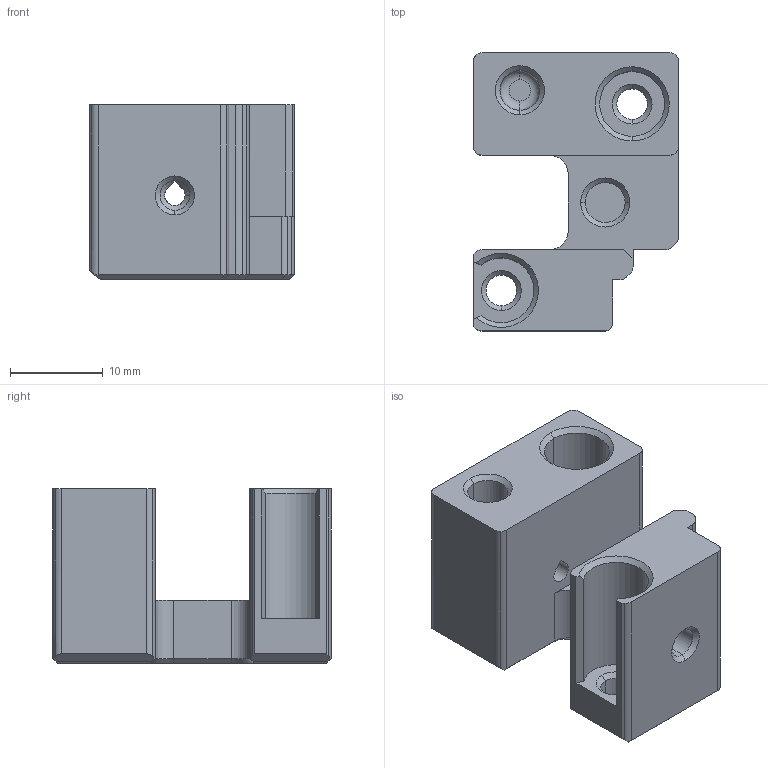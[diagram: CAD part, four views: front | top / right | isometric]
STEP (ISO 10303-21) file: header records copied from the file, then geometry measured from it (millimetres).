
FILE_DESCRIPTION((''),'2;1');
FILE_NAME('_JJJ0001','2025-04-16T16:46:50',('Mayn'),(''),'CREO PARAMETRIC BY PTC INC, 2024063','CREO PARAMETRIC BY PTC INC, 2024063','');
FILE_SCHEMA(('CONFIG_CONTROL_DESIGN'));
Length unit declared in the file: millimetre
Products named in the file (1): _JJJ0001
Bounding box: 22.1 x 30 x 18.8 mm (x, y, z)
Volume: 6223.5 mm3; surface area: 4072.2 mm2
Topology: 1 solids, 1 shells, 121 faces, 309 edges, 195 vertices
Faces by surface type: plane 51, cylinder 39, cone 29, torus 2
Entity records: 3728 total; most frequent: CARTESIAN_POINT 729, ORIENTED_EDGE 618, DIRECTION 616, EDGE_CURVE 309, AXIS2_PLACEMENT_3D 220, VERTEX_POINT 195, VECTOR 176, LINE 176
